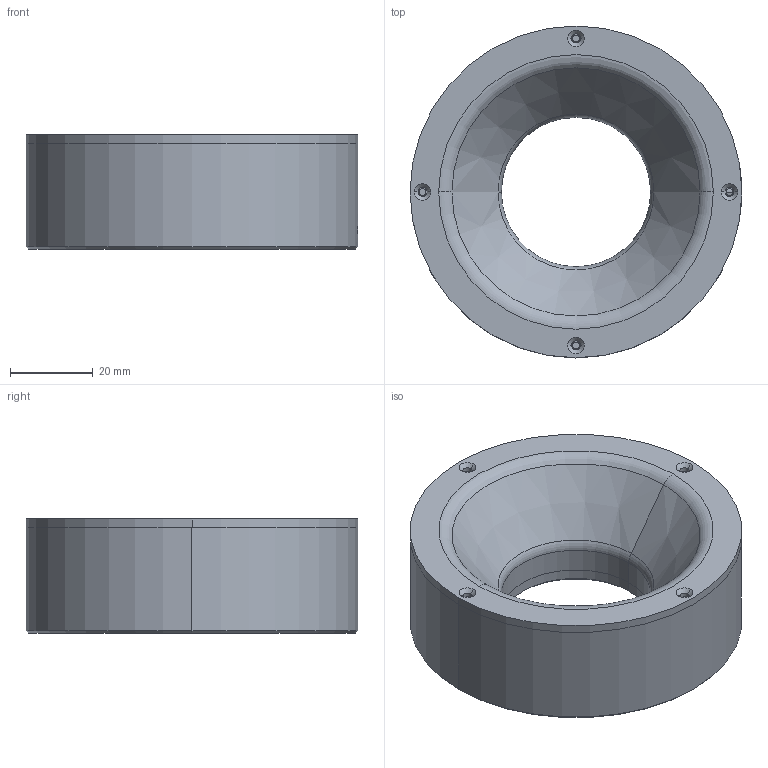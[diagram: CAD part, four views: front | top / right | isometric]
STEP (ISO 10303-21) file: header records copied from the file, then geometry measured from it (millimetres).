
FILE_DESCRIPTION (( 'STEP AP214' ), '1' );
FILE_NAME ('CST-HRS80-简易3D图.STEP', '2019-09-26T11:05:37', ( '微软用户' ), ( '微软中国' ), 'SwSTEP 2.0', 'SolidWorks 2014', '' );
FILE_SCHEMA (( 'AUTOMOTIVE_DESIGN' ));
Length unit declared in the file: millimetre
Products named in the file (1): CST-HRS80-潠眢3D芞
Bounding box: 80 x 80 x 27.5 mm (x, y, z)
Surface area: 19067.8 mm2 (no closed solid volume)
Topology: 0 solids, 2 shells, 51 faces, 135 edges, 88 vertices
Faces by surface type: cylinder 26, cone 14, plane 5, torus 4, bspline 2
Entity records: 3403 total; most frequent: CARTESIAN_POINT 1498, DIRECTION 309, ORIENTED_EDGE 236, EDGE_CURVE 135, AXIS2_PLACEMENT_3D 134, VERTEX_POINT 88, CIRCLE 84, EDGE_LOOP 68
